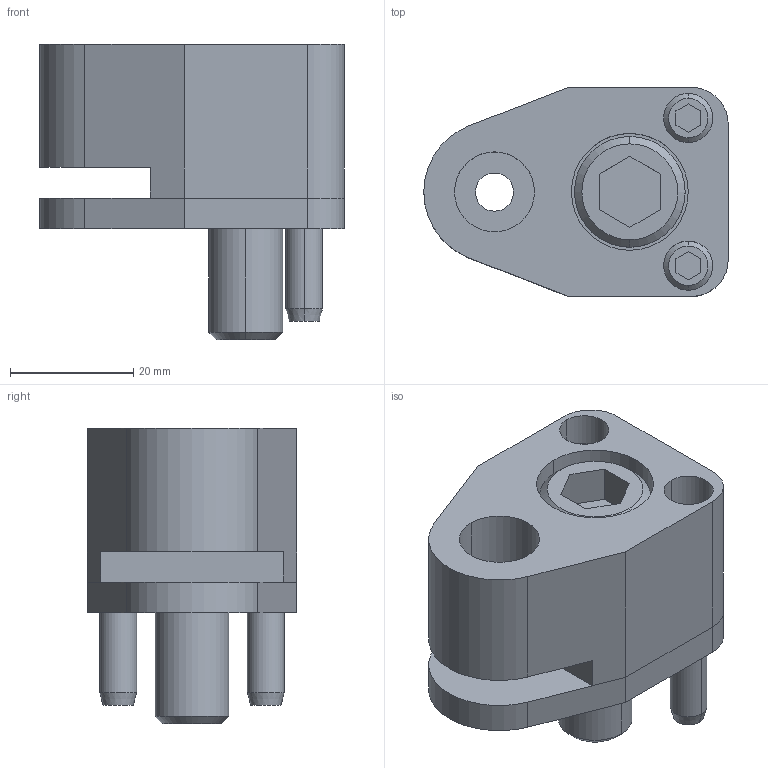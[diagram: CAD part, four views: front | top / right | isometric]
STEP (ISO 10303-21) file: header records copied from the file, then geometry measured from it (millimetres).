
FILE_DESCRIPTION(/* description */ (''),/* implementation_level */ '2;1');
FILE_NAME(/* name */ '3d_tp-fps13_03048_r00.stp',/* time_stamp */ '2011-01-10T14:09:00+09:00',/* author */ ('MISUMI'),/* organization */ (''),/* preprocessor_version */ 'ST-DEVELOPER v11',/* originating_system */ 'UGS - NX 5.0',/* authorisation */ '');
FILE_SCHEMA (('CONFIG_CONTROL_DESIGN'));
Length unit declared in the file: millimetre
Products named in the file (1): 3d_tp-fps13_03048_r00
Bounding box: 49.5 x 34 x 48 mm (x, y, z)
Volume: 38237.4 mm3; surface area: 17231.1 mm2
Topology: 7 solids, 7 shells, 131 faces, 300 edges, 193 vertices
Faces by surface type: plane 59, cylinder 50, cone 22
Entity records: 3856 total; most frequent: CARTESIAN_POINT 684, DIRECTION 678, ORIENTED_EDGE 600, EDGE_CURVE 300, AXIS2_PLACEMENT_3D 255, VERTEX_POINT 193, LINE 168, VECTOR 168
